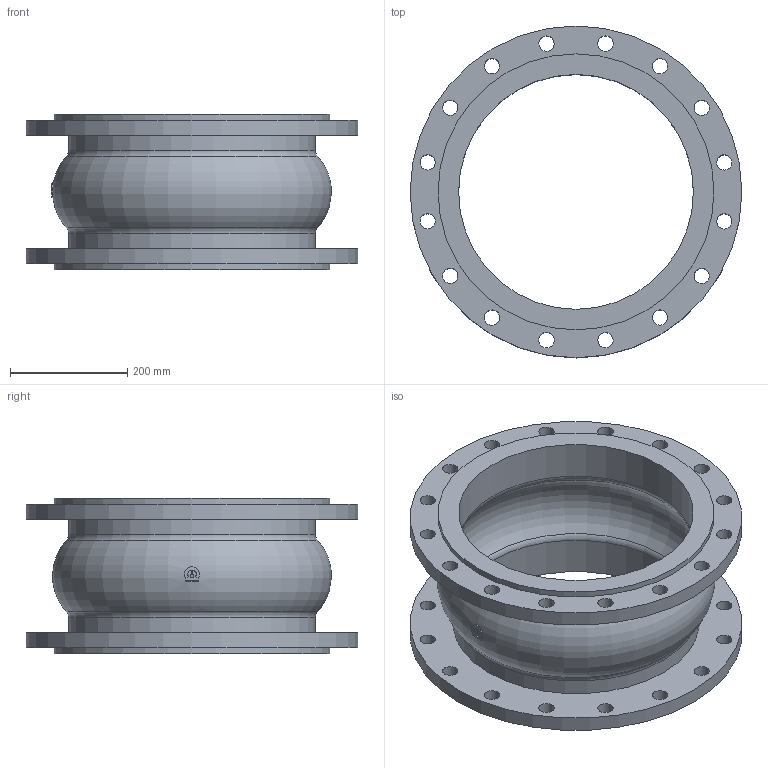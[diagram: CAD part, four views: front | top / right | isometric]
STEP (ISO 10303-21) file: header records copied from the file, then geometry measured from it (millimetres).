
FILE_DESCRIPTION(('STEP AP203'), '1');
FILE_NAME('Êîìïåíñàòîð KMS DN400 PN10_L265', '', ('UNSPECIFIED'), ('UNSPECIFIED'), 'ASCON STEP Converter 1.6', 'ASCON Math Kernel', '');
FILE_SCHEMA(('CONFIG_CONTROL_DESIGN'));
Length unit declared in the file: millimetre
Bounding box: 565 x 565 x 265 mm (x, y, z)
Volume: 9759439.1 mm3; surface area: 1285255.6 mm2
Topology: 1 solids, 1 shells, 69 faces, 172 edges, 112 vertices
Faces by surface type: cylinder 47, plane 13, torus 9
Full cylindrical faces by diameter (mm): 26 x32, 400 x2, 420 x2, 470 x2, 565 x2
Entity records: 3578 total; most frequent: CARTESIAN_POINT 1349, DIRECTION 334, ORIENTED_EDGE 252, EDGE_LOOP 188, AXIS2_PLACEMENT_3D 160, EDGE_CURVE 126, VERTEX_POINT 112, FACE_BOUND 96
